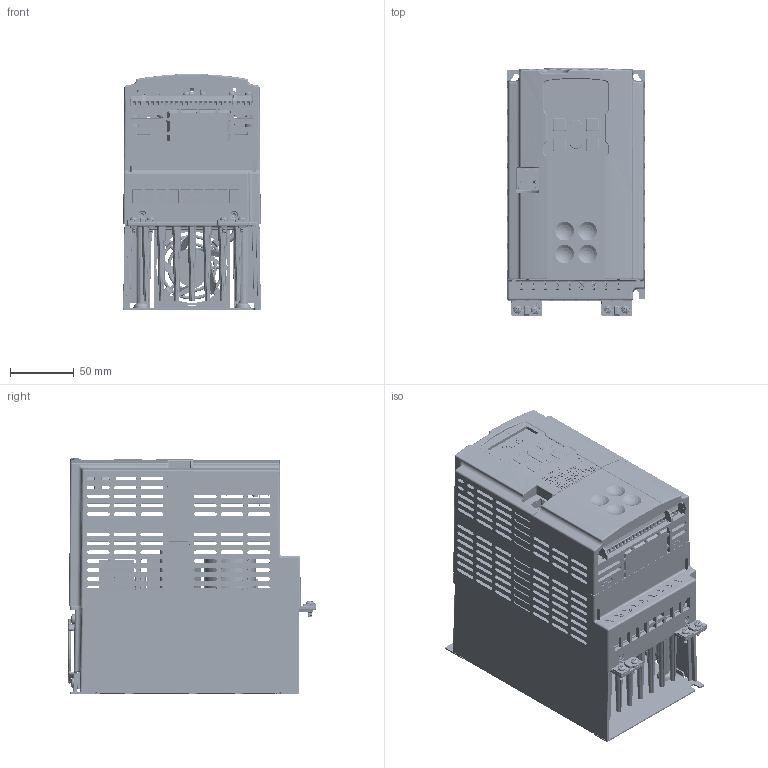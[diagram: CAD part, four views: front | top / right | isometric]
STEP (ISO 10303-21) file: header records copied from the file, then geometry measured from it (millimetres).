
FILE_DESCRIPTION(/* description */ (''),/* implementation_level */ '2;1');
FILE_NAME(/* name */ 'C:\Users\943103\Desktop\DIDI AC15 Frame02.stp',/* time_stamp */ '2023-09-13T23:44:49+01:00',/* author */ ('943103'),/* organization */ (''),/* preprocessor_version */ 'ST-DEVELOPER v18',/* originating_system */ 'Autodesk Inventor 2020',/* authorisation */ '');
FILE_SCHEMA (('CONFIG_CONTROL_DESIGN'));
Products named in the file (1): Assembly10 copy_SUB
Bounding box: 108.4 x 194.5 x 185.21 mm (x, y, z)
Volume: 716780.4 mm3; surface area: 550602 mm2
Topology: 1 solids, 48 shells, 15871 faces, 43247 edges, 27891 vertices
Faces by surface type: plane 8381, cylinder 2936, bspline 2933, cone 1053, torus 424, sphere 144
Full cylindrical faces by diameter (mm): 1 x6, 1.4 x21, 1.45 x4, 1.6 x9, 1.714 x1, 1.788 x41, 2 x25, 2.2 x4, 2.35 x235, 2.459 x7, 2.5 x48, 2.8 x4, 2.9 x25, 3 x181, 3.091 x112, 3.2 x10, 3.5 x8, 3.6 x2, 4 x110, 4.2 x3, 4.3 x4, 4.5 x4, 5.15 x9, 5.612 x9, 6 x14, 8 x14, 8.2 x2, 9 x1, 40.582 x1, 56 x1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
Entity records: 778730 total; most frequent: CARTESIAN_POINT 382392, ORIENTED_EDGE 86426, DIRECTION 67539, EDGE_CURVE 43213, VERTEX_POINT 27891, LINE 26053, VECTOR 26053, AXIS2_PLACEMENT_3D 20743
